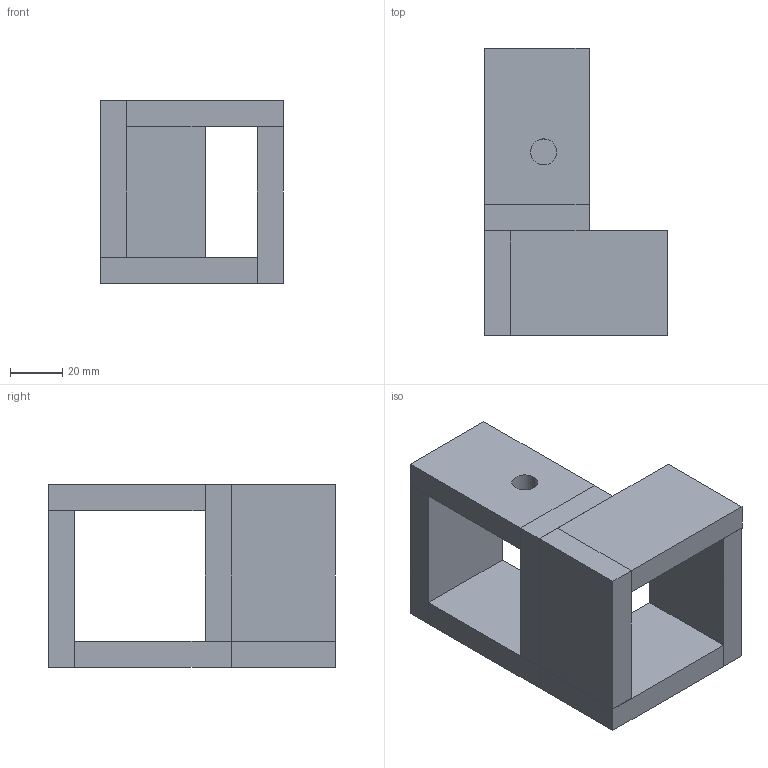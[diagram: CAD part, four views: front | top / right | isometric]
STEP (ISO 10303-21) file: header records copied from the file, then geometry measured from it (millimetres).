
FILE_DESCRIPTION (( 'STEP AP214' ), '1' );
FILE_NAME ('l3.STEP', '2014-06-02T18:07:37', ( '' ), ( '' ), 'SwSTEP 2.0', 'SolidWorks 2011', '' );
FILE_SCHEMA (( 'AUTOMOTIVE_DESIGN' ));
Length unit declared in the file: millimetre
Products named in the file (9): l2; l1; piece; l3
Assembly tree (12 placements, depth 4):
  l3
    l2
      l1
        piece
        piece
      l1
        piece
        piece
    l2
      l1  x2
        piece
Bounding box: 70 x 110 x 70 mm (x, y, z)
Volume: 190308.4 mm3; surface area: 54840.6 mm2
Topology: 8 solids, 8 shells, 59 faces, 126 edges, 84 vertices
Faces by surface type: plane 53, bspline 4, cylinder 2
Entity records: 1176 total; most frequent: CARTESIAN_POINT 239, DIRECTION 152, ORIENTED_EDGE 132, EDGE_CURVE 66, VECTOR 54, LINE 54, AXIS2_PLACEMENT_3D 49, VERTEX_POINT 44
